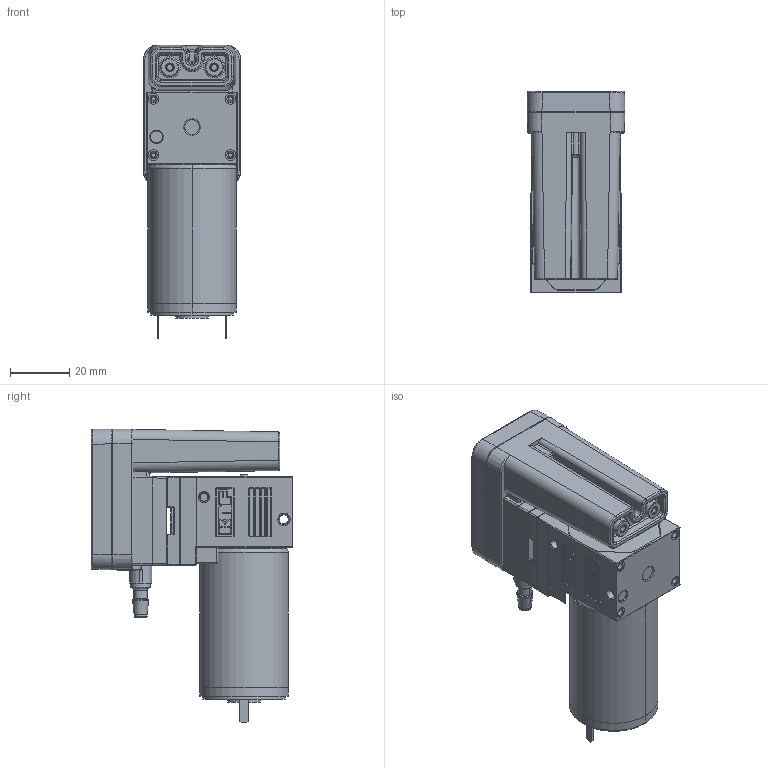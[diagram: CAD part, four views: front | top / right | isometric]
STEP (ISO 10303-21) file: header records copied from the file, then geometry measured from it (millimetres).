
FILE_DESCRIPTION((''),'2;1');
FILE_NAME('358681_SW0001','2026-01-13T12:36:12',('Brian.Timoney'),('KNF Flodos AG, 6210 Sursee, Switzerland'),'CREO PARAMETRIC BY PTC INC, 2024401','CREO PARAMETRIC BY PTC INC, 2024401','');
FILE_SCHEMA(('AP242_MANAGED_MODEL_BASED_3D_ENGINEERING_MIM_LF { 1 0 10303 442 1 1 4 }'));
Products named in the file (1): 358681_SW0001
Bounding box: 33 x 68.1 x 99.25 mm (x, y, z)
Volume: 116611.8 mm3; surface area: 27611.8 mm2
Topology: 1 solids, 1 shells, 3453 faces, 9081 edges, 5786 vertices
Faces by surface type: plane 2049, cylinder 778, bspline 244, torus 218, cone 138, sphere 26
Entity records: 192012 total; most frequent: CARTESIAN_POINT 107903, ORIENTED_EDGE 18162, DIRECTION 16257, EDGE_CURVE 9081, VECTOR 6511, LINE 6511, VERTEX_POINT 5786, AXIS2_PLACEMENT_3D 4873
